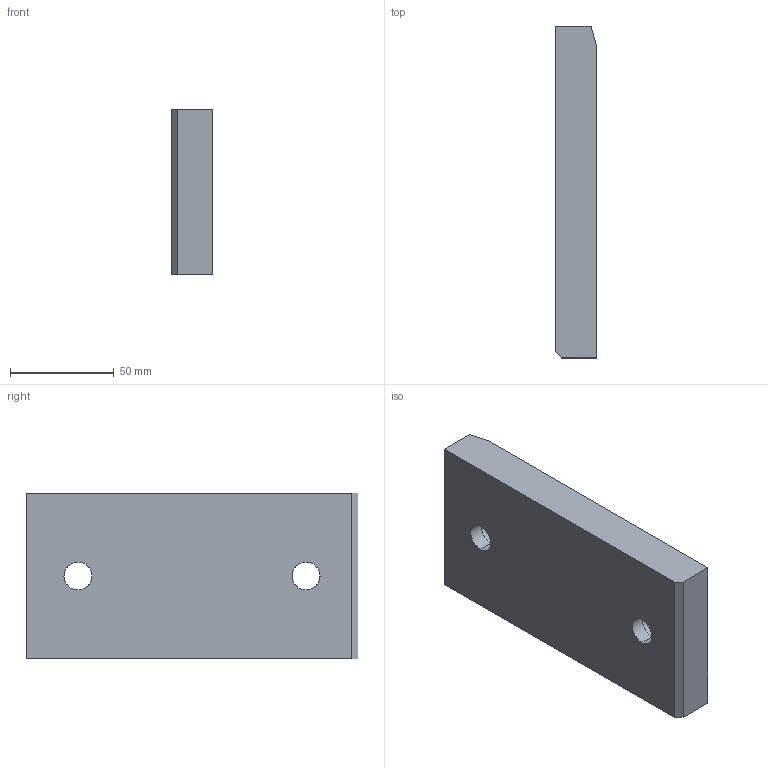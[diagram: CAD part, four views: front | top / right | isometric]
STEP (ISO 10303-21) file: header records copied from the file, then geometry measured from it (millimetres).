
FILE_DESCRIPTION(('CATIA V5 STEP Exchange'),'2;1');
FILE_NAME('C:\Users\borellobunino\Desktop\3D X SITO CF\A915\GSB_OILLESS_G22501080160\STEP-2.03\A915-80X160.stp','2019-07-14T12:56:13+00:00',('none'),('none'),'CATIA Version 5 Release 20 GA (IN-10)','CATIA V5 STEP AP203','none');
FILE_SCHEMA(('CONFIG_CONTROL_DESIGN'));
Length unit declared in the file: millimetre
Products named in the file (1): A915-80X160
Bounding box: 20 x 160 x 80 mm (x, y, z)
Volume: 244135.6 mm3; surface area: 36337.9 mm2
Topology: 1 solids, 1 shells, 23 faces, 73 edges, 54 vertices
Faces by surface type: plane 10, cylinder 9, torus 4
Entity records: 1057 total; most frequent: CARTESIAN_POINT 375, ORIENTED_EDGE 146, DIRECTION 103, EDGE_CURVE 73, AXIS2_PLACEMENT_3D 54, VERTEX_POINT 54, CIRCLE 30, EDGE_LOOP 29
